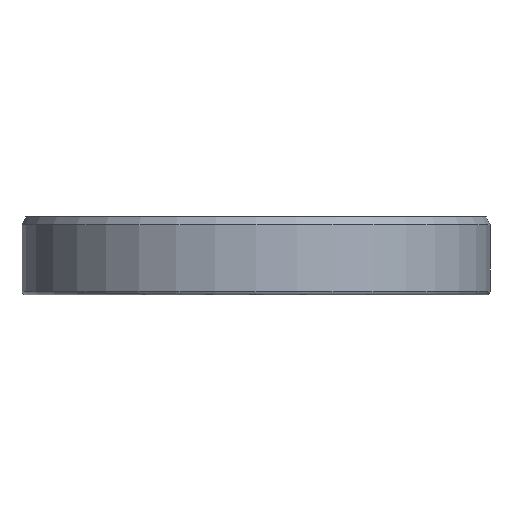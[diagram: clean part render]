
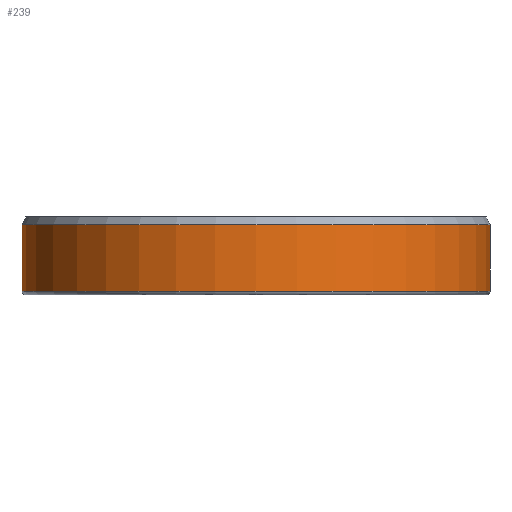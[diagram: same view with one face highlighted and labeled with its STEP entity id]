
A CAD part, front view. The second image highlights one B-rep face of the part: STEP entity #239.
In plain terms, the highlighted cylindrical face has radius 21 mm (diameter 42 mm), a full revolution.
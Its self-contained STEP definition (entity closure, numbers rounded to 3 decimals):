
#27=CYLINDRICAL_SURFACE('',#283,21.);
#32=FACE_OUTER_BOUND('',#50,.T.);
#50=EDGE_LOOP('',(#171,#172,#173,#174,#175));
#72=LINE('',#426,#82);
#82=VECTOR('',#335,21.);
#91=CIRCLE('',#280,21.);
#92=CIRCLE('',#281,21.);
#94=CIRCLE('',#284,21.);
#114=VERTEX_POINT('',#416);
#115=VERTEX_POINT('',#417);
#117=VERTEX_POINT('',#424);
#133=EDGE_CURVE('',#114,#115,#91,.T.);
#134=EDGE_CURVE('',#115,#114,#92,.T.);
#137=EDGE_CURVE('',#117,#117,#94,.T.);
#138=EDGE_CURVE('',#117,#115,#72,.T.);
#171=ORIENTED_EDGE('',*,*,#137,.F.);
#172=ORIENTED_EDGE('',*,*,#138,.T.);
#173=ORIENTED_EDGE('',*,*,#133,.F.);
#174=ORIENTED_EDGE('',*,*,#134,.F.);
#175=ORIENTED_EDGE('',*,*,#138,.F.);
#239=ADVANCED_FACE('',(#32),#27,.T.);
#280=AXIS2_PLACEMENT_3D('',#418,#324,#325);
#281=AXIS2_PLACEMENT_3D('',#419,#326,#327);
#283=AXIS2_PLACEMENT_3D('',#423,#331,#332);
#284=AXIS2_PLACEMENT_3D('',#425,#333,#334);
#324=DIRECTION('center_axis',(0.,0.,1.));
#325=DIRECTION('ref_axis',(1.,0.,0.));
#326=DIRECTION('center_axis',(0.,0.,1.));
#327=DIRECTION('ref_axis',(1.,0.,0.));
#331=DIRECTION('center_axis',(0.,0.,-1.));
#332=DIRECTION('ref_axis',(-1.,0.,0.));
#333=DIRECTION('center_axis',(0.,0.,-1.));
#334=DIRECTION('ref_axis',(1.,0.,0.));
#335=DIRECTION('',(0.,0.,1.));
#416=CARTESIAN_POINT('',(-21.,0.,-0.7));
#417=CARTESIAN_POINT('',(21.,0.,-0.7));
#418=CARTESIAN_POINT('Origin',(0.,0.,-0.7));
#419=CARTESIAN_POINT('Origin',(0.,0.,-0.7));
#423=CARTESIAN_POINT('Origin',(0.,0.,-3.5));
#424=CARTESIAN_POINT('',(21.,0.,-6.65));
#425=CARTESIAN_POINT('Origin',(0.,0.,-6.65));
#426=CARTESIAN_POINT('',(21.,0.,-3.5));
